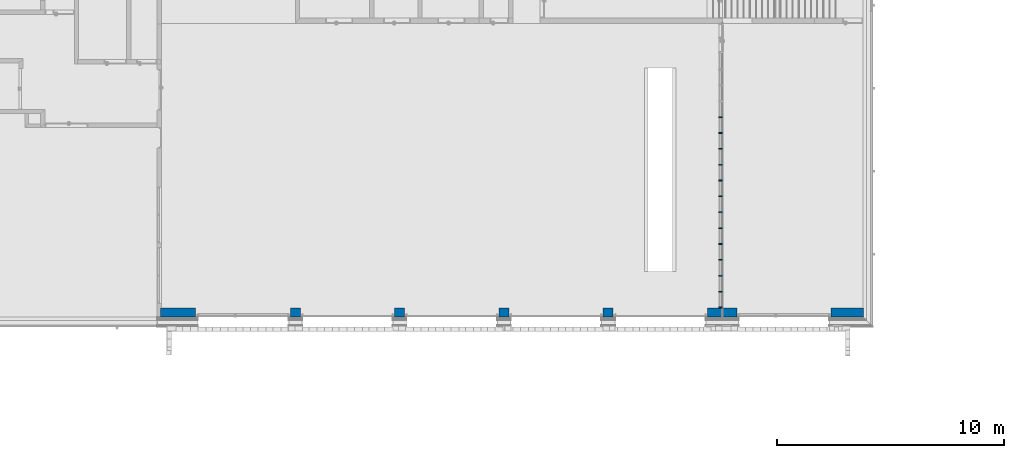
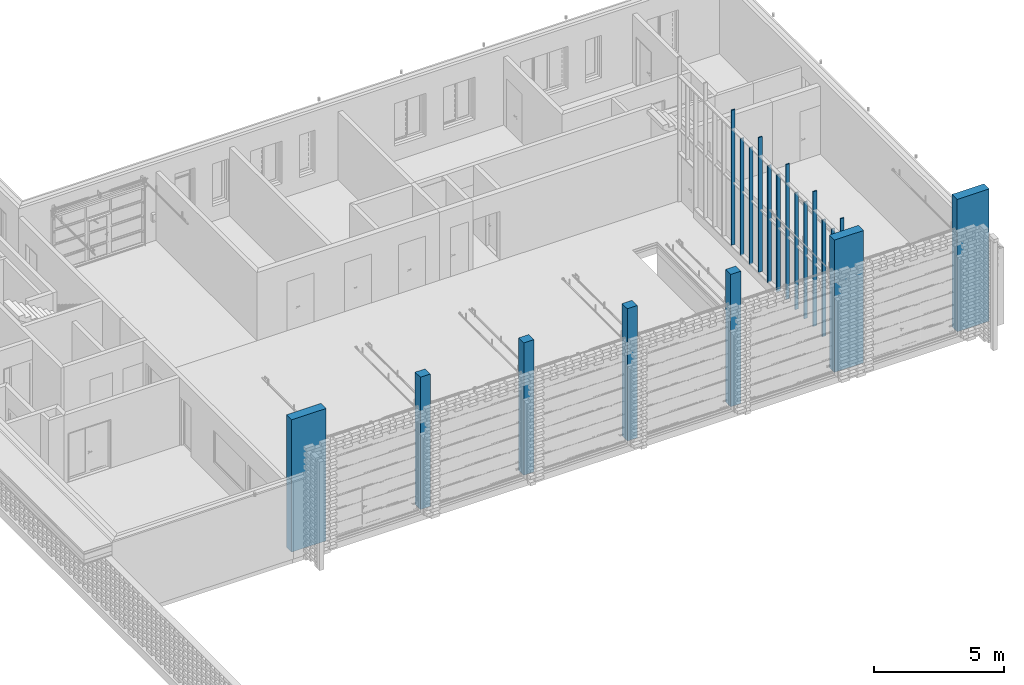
# One storey, part 1 of 62: 20 columns.
"""IFC2X3 building model written with IfcOpenShell, lengths in millimetres."""

from ifc_helpers import new_model, entity, si_unit, converted_unit, derived_unit, money_unit, direction, frame, origin_with_axes, origin_2d_with_axis, place, context, subcontext, project, spatial, rectangle, extrude, material, type_object, element, save


model = new_model("IFC2X3")

# Units and contexts
model_context = context("Model", 3, precision=0.01, world=origin_with_axes(), true_north=direction((0.0, 1.0)))
body_context = subcontext(model_context, "Body", "Model", "MODEL_VIEW")
ifc_project = project(units=[si_unit("LENGTHUNIT", "METRE", prefix="MILLI"), si_unit("AREAUNIT", "SQUARE_METRE"), si_unit("VOLUMEUNIT", "CUBIC_METRE"), converted_unit("PLANEANGLEUNIT", "DEGREE", entity("IfcPlaneAngleMeasure", 0.0174532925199), si_unit("PLANEANGLEUNIT", "RADIAN"), dimensions=[0, 0, 0, 0, 0, 0, 0]), si_unit("SOLIDANGLEUNIT", "STERADIAN"), money_unit("EUR"), converted_unit("TIMEUNIT", "Year", entity("IfcTimeMeasure", 31556926.0), si_unit("TIMEUNIT", "SECOND"), dimensions=[0, 0, 1, 0, 0, 0, 0]), si_unit("MASSUNIT", "GRAM", prefix="KILO"), si_unit("THERMODYNAMICTEMPERATUREUNIT", "DEGREE_CELSIUS"), si_unit("LUMINOUSINTENSITYUNIT", "LUMEN"), si_unit("ENERGYUNIT", "JOULE", prefix="MEGA"), derived_unit("THERMALCONDUCTANCEUNIT", [(si_unit("POWERUNIT", "WATT"), 1), (si_unit("LENGTHUNIT", "METRE"), -1), (si_unit("THERMODYNAMICTEMPERATUREUNIT", "KELVIN"), -1)]), derived_unit("SPECIFICHEATCAPACITYUNIT", [(si_unit("ENERGYUNIT", "JOULE"), 1), (si_unit("MASSUNIT", "GRAM", prefix="KILO"), -1), (si_unit("THERMODYNAMICTEMPERATUREUNIT", "KELVIN"), -1)]), derived_unit("MASSDENSITYUNIT", [(si_unit("MASSUNIT", "GRAM", prefix="KILO"), 1), (si_unit("VOLUMEUNIT", "CUBIC_METRE"), -1)])], contexts=[model_context])

# Site, building, storey
site_placement = place(None, origin_with_axes())
site = spatial("IfcSite", under=ifc_project, at=site_placement, Name="KIRDE 14, ELVA", CompositionType="ELEMENT")
building_placement = place(site_placement, origin_with_axes())
building = spatial("IfcBuilding", under=site, at=building_placement, Name="PPA ja Päästeameti ühishoone", CompositionType="ELEMENT")
storey_placement = place(building_placement, origin_with_axes())
storey = spatial("IfcBuildingStorey", under=building, at=storey_placement, Name="Esimene korrus", CompositionType="ELEMENT", Elevation=0.0)

# Columns
ifc_material_1 = material(Name="Concrete - Structural")
column_type_1 = type_object("IfcColumnType", Name="Concrete - Structural 450 x 400", PredefinedType="COLUMN")
for number, where, z_axis, x_axis, name in (
    (1, (15000.1727352, 199.999895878, -1.29194823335e-09), (0.0, 0.0, 1.0), (-1.0, -3.98109667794e-10, 0.0), "RB post"),
    (2, (24200.1727358, 199.999899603, -1.29194823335e-09), (0.0, 0.0, 1.0), (-1.0, -3.98109667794e-10, 0.0), "RB post"),
    (3, (28800.172735, 199.999899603, -1.29194823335e-09), (0.0, 0.0, 1.0), (-1.0, -3.98109667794e-10, 0.0), "RB post"),
    (4, (19600.1727353, 199.999896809, -1.29194823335e-09), (0.0, 0.0, 1.0), (-1.0, -3.98109667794e-10, 0.0), "RB post"),
):
    element("IfcColumn", number, at=place(storey_placement, frame(where, z_axis=z_axis, x_axis=x_axis)), inside=storey, type_object=column_type_1, material=ifc_material_1, Name=name, ObjectType="COLUMN", context=body_context, shape_type="SweptSolid", body=[
        extrude(rectangle(XDim=450.0, YDim=400.0, at=origin_2d_with_axis()), origin_with_axes(), (0.0, 0.0, 1.0), 6220.0),
    ])
column_type_2 = type_object("IfcColumnType", Name="Concrete - Structural 1535 x 400", PredefinedType="COLUMN")
column_1_placement = place(storey_placement, frame((9820.08644072, 199.999893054, -1.29196653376e-09), z_axis=(0.0, 0.0, 1.0), x_axis=(-1.0, -3.98109667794e-10, 0.0)))
element("IfcColumn", 5, at=column_1_placement, inside=storey, type_object=column_type_2, material=ifc_material_1, Name="RB post", ObjectType="COLUMN", context=body_context, shape_type="SweptSolid", body=[
    extrude(rectangle(XDim=1535.0, YDim=400.0, at=origin_2d_with_axis()), origin_with_axes(), (0.0, 0.0, 1.0), 6220.0),
])
column_type_3 = type_object("IfcColumnType", Name="Concrete - Structural 1300 x 400", PredefinedType="COLUMN")
column_2_placement = place(storey_placement, frame((33836.3849181, 199.999903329, -1.29196653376e-09), z_axis=(0.0, 0.0, 1.0), x_axis=(-1.0, -3.98109667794e-10, 0.0)))
element("IfcColumn", 6, at=column_2_placement, inside=storey, type_object=column_type_3, material=ifc_material_1, Name="RB post", ObjectType="COLUMN", context=body_context, shape_type="SweptSolid", body=[
    extrude(rectangle(XDim=1300.0, YDim=400.0, at=origin_2d_with_axis()), origin_with_axes(), (0.0, 0.0, 1.0), 6220.0),
])
column_type_4 = type_object("IfcColumnType", Name="Concrete - Structural 1425 x 400", PredefinedType="COLUMN")
column_3_placement = place(storey_placement, frame((39354.0155451, 199.999904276, -1.29196653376e-09), z_axis=(0.0, 0.0, 1.0), x_axis=(-1.0, -3.98109667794e-10, 0.0)))
element("IfcColumn", 7, at=column_3_placement, inside=storey, type_object=column_type_4, material=ifc_material_1, Name="M_Concrete-Rectangular-Column:400 x 400mm", ObjectType="COLUMN", context=body_context, shape_type="SweptSolid", body=[
    extrude(rectangle(XDim=1425.0, YDim=400.0, at=origin_2d_with_axis()), origin_with_axes(), (0.0, 0.0, 1.0), 6220.0),
])
ifc_material_2 = material(Name="GENERIC - STRUCTURAL")
column_type_5 = type_object("IfcColumnType", Name="GENERIC - STRUCTURAL 50 x 160", PredefinedType="COLUMN")
for number, where, z_axis, x_axis in (
    (8, (33765.0006963, 7423.99992811, 400.0), (0.0, 0.0, 1.0), (3.98084293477e-10, -1.0, 0.0)),
    (9, (33765.0006986, 1123.99992829, 400.0), (0.0, 0.0, 1.0), (3.98084293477e-10, -1.0, 0.0)),
):
    element("IfcColumn", number, at=place(storey_placement, frame(where, z_axis=z_axis, x_axis=x_axis)), inside=storey, type_object=column_type_5, material=ifc_material_2, Name="LIIMPUITPOST", ObjectType="COLUMN", context=body_context, shape_type="SweptSolid", body=[
        extrude(rectangle(XDim=50.0, YDim=160.0, at=origin_2d_with_axis()), origin_with_axes(), (0.0, 0.0, 1.0), 5490.0),
    ])
column_4_placement = place(storey_placement, frame((33765.0006991, 423.999928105, 400.0), z_axis=(0.0, 0.0, 1.0), x_axis=(3.98084293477e-10, -1.0, 0.0)))
element("IfcColumn", 10, at=column_4_placement, inside=storey, type_object=column_type_5, material=ifc_material_2, Name="LIIMPUITPOST", ObjectType="COLUMN", context=body_context, shape_type="SweptSolid", body=[
    extrude(rectangle(XDim=50.0, YDim=160.0, at=origin_2d_with_axis()), origin_with_axes(), (0.0, 0.0, 1.0), 6400.0),
])
column_5_placement = place(storey_placement, frame((33765.0006949, 8123.99992829, 400.0), z_axis=(0.0, 0.0, 1.0), x_axis=(3.98084293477e-10, -1.0, 0.0)))
element("IfcColumn", 11, at=column_5_placement, inside=storey, type_object=column_type_5, material=ifc_material_2, Name="LIIMPUITPOST", ObjectType="COLUMN", context=body_context, shape_type="SweptSolid", body=[
    extrude(rectangle(XDim=50.0, YDim=160.0, at=origin_2d_with_axis()), origin_with_axes(), (0.0, 0.0, 1.0), 5490.0),
])
for number, where, z_axis, x_axis in (
    (12, (33765.0006958, 6723.99992792, 460.0), (0.0, 0.0, 1.0), (3.98084293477e-10, -1.0, 0.0)),
    (13, (33765.0006954, 8823.99992755, 460.0), (0.0, 0.0, 1.0), (3.98084293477e-10, -1.0, 0.0)),
    (14, (33765.0006972, 2523.99992773, 460.0), (0.0, 0.0, 1.0), (3.98084293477e-10, -1.0, 0.0)),
):
    element("IfcColumn", number, at=place(storey_placement, frame(where, z_axis=z_axis, x_axis=x_axis)), inside=storey, type_object=column_type_5, material=ifc_material_2, Name="LIIMPUITPOST", ObjectType="COLUMN", context=body_context, shape_type="SweptSolid", body=[
        extrude(rectangle(XDim=50.0, YDim=160.0, at=origin_2d_with_axis()), origin_with_axes(), (0.0, 0.0, 1.0), 6340.0),
    ])
for number, where, z_axis, x_axis in (
    (15, (33765.0006982, 3223.99992885, 400.0), (0.0, 0.0, 1.0), (3.98084293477e-10, -1.0, 0.0)),
    (16, (33765.0006968, 3923.99992717, 400.0), (0.0, 0.0, 1.0), (3.98084293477e-10, -1.0, 0.0)),
):
    element("IfcColumn", number, at=place(storey_placement, frame(where, z_axis=z_axis, x_axis=x_axis)), inside=storey, type_object=column_type_5, material=ifc_material_2, Name="LIIMPUITPOST", ObjectType="COLUMN", context=body_context, shape_type="SweptSolid", body=[
        extrude(rectangle(XDim=50.0, YDim=160.0, at=origin_2d_with_axis()), origin_with_axes(), (0.0, 0.0, 1.0), 5490.0),
    ])
column_6_placement = place(storey_placement, frame((33765.0006972, 4623.99992829, 460.0), z_axis=(0.0, 0.0, 1.0), x_axis=(3.98084293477e-10, -1.0, 0.0)))
element("IfcColumn", 17, at=column_6_placement, inside=storey, type_object=column_type_5, material=ifc_material_2, Name="LIIMPUITPOST", ObjectType="COLUMN", context=body_context, shape_type="SweptSolid", body=[
    extrude(rectangle(XDim=50.0, YDim=160.0, at=origin_2d_with_axis()), origin_with_axes(), (0.0, 0.0, 1.0), 6340.0),
])
for number, where, z_axis, x_axis in (
    (18, (33765.0006963, 5323.99992662, 400.0), (0.0, 0.0, 1.0), (3.98084293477e-10, -1.0, 0.0)),
    (19, (33765.0006972, 6023.99992773, 400.0), (0.0, 0.0, 1.0), (3.98084293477e-10, -1.0, 0.0)),
    (20, (33765.0006991, 1823.99992848, 400.0), (0.0, 0.0, 1.0), (3.98084293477e-10, -1.0, 0.0)),
):
    element("IfcColumn", number, at=place(storey_placement, frame(where, z_axis=z_axis, x_axis=x_axis)), inside=storey, type_object=column_type_5, material=ifc_material_2, Name="LIIMPUITPOST", ObjectType="COLUMN", context=body_context, shape_type="SweptSolid", body=[
        extrude(rectangle(XDim=50.0, YDim=160.0, at=origin_2d_with_axis()), origin_with_axes(), (0.0, 0.0, 1.0), 5490.0),
    ])

save(model, "model.ifc")
